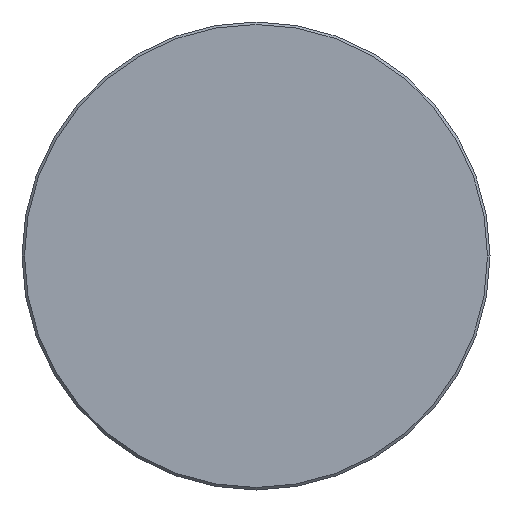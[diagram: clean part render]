
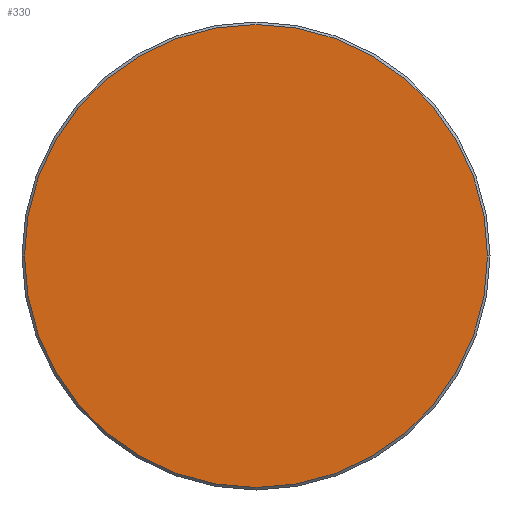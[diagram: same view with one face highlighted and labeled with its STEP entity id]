
A CAD part, left-side view. The second image highlights one B-rep face of the part: STEP entity #330.
In plain terms, the highlighted planar face has unit normal (-1, 0, 0).
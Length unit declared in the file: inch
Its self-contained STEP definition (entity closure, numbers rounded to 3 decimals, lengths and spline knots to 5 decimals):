
#3 = DIRECTION ( 'NONE',  ( 0., -1., 0. ) ) ;
#10 = ORIENTED_EDGE ( 'NONE', *, *, #48, .T. ) ;
#23 = DIRECTION ( 'NONE',  ( -1., 0., 0. ) ) ;
#48 = EDGE_CURVE ( 'NONE', #305, #197, #218, .T. ) ;
#53 = DIRECTION ( 'NONE',  ( 0., -1., 0. ) ) ;
#82 = AXIS2_PLACEMENT_3D ( 'NONE', #202, #141, #3 ) ;
#83 = ORIENTED_EDGE ( 'NONE', *, *, #159, .T. ) ;
#141 = DIRECTION ( 'NONE',  ( -1., 0., 0. ) ) ;
#159 = EDGE_CURVE ( 'NONE', #197, #305, #268, .T. ) ;
#170 = CARTESIAN_POINT ( 'NONE',  ( 0., 0.371, 0. ) ) ;
#181 = FACE_OUTER_BOUND ( 'NONE', #313, .T. ) ;
#183 = AXIS2_PLACEMENT_3D ( 'NONE', #190, #23, #53 ) ;
#189 = AXIS2_PLACEMENT_3D ( 'NONE', #213, #243, #336 ) ;
#190 = CARTESIAN_POINT ( 'NONE',  ( 0., 0., 0. ) ) ;
#193 = PLANE ( 'NONE',  #82 ) ;
#197 = VERTEX_POINT ( 'NONE', #368 ) ;
#202 = CARTESIAN_POINT ( 'NONE',  ( 0., 0., 0. ) ) ;
#213 = CARTESIAN_POINT ( 'NONE',  ( 0., 0., 0. ) ) ;
#218 = CIRCLE ( 'NONE', #189, 0.371 ) ;
#243 = DIRECTION ( 'NONE',  ( -1., 0., 0. ) ) ;
#268 = CIRCLE ( 'NONE', #183, 0.371 ) ;
#305 = VERTEX_POINT ( 'NONE', #170 ) ;
#313 = EDGE_LOOP ( 'NONE', ( #10, #83 ) ) ;
#330 = ADVANCED_FACE ( 'NONE', ( #181 ), #193, .T. ) ;
#336 = DIRECTION ( 'NONE',  ( 0., -1., 0. ) ) ;
#368 = CARTESIAN_POINT ( 'NONE',  ( 0., -0.371, 0. ) ) ;
